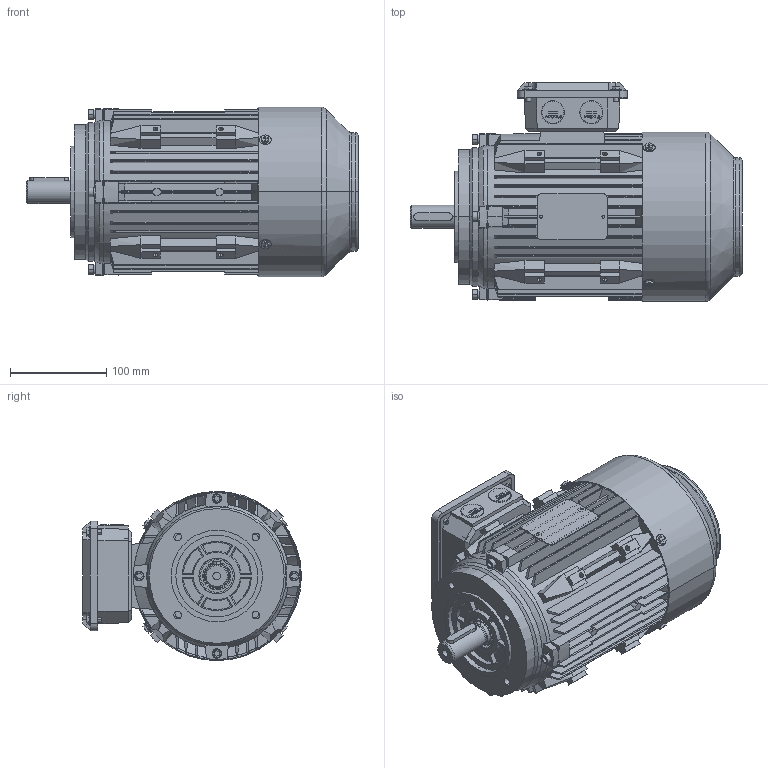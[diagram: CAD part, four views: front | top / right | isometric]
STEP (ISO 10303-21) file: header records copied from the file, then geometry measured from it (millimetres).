
FILE_DESCRIPTION (( 'STEP AP203' ), '1' );
FILE_NAME ('TC 90L B14 装配体.STEP', '2013-12-12T07:22:46', ( '微软用户' ), ( '微软中国' ), 'SwSTEP 2.0', 'SolidWorks 2008', '' );
FILE_SCHEMA (( 'CONFIG_CONTROL_DESIGN' ));
Products named in the file (20): T90L-4无轴转子_默认; 6205_默认; 油封25-37-7_默认; M6-20_默认; TC 90-100 接线盒盖_默认; TC 80-90风叶_默认; 风罩_默认; M20螺塞_默认; TC 90 B14端盖_默认; TC 90L转轴（波形垫在前）_默认; TC 90L 转子_默认; 6_默认; TC 90-100 接线盒座_默认; 5_默认; M5-12_默认; TC 90平键_默认; TC 90L B14 蚾饜极; TC 90L机座 B5_默认; TC 90 B3端盖_默认; T90L-4定子铁心_默认
Assembly tree (46 placements, depth 3):
  TC 90L B14 蚾饜极
    TC 90L 转子_默认
      T90L-4无轴转子_默认
      6205_默认  x2
      TC 90L转轴（波形垫在前）_默认
    M5-12_默认  x8
    5_默认  x4
    TC 90L机座 B5_默认
    M6-20_默认  x8
    6_默认  x8
    油封25-37-7_默认  x2
    风罩_默认
    TC 90平键_默认
    TC 90 B14端盖_默认
    TC 90-100 接线盒盖_默认
    TC 90 B3端盖_默认
    M20螺塞_默认  x2
    TC 80-90风叶_默认
    T90L-4定子铁心_默认
    TC 90-100 接线盒座_默认
Bounding box: 345 x 227.5 x 175.99 mm (x, y, z)
Volume: 2727676.7 mm3; surface area: 984213.4 mm2
Topology: 49 solids, 50 shells, 3335 faces, 8982 edges, 5867 vertices
Faces by surface type: plane 1703, cylinder 1091, cone 238, torus 167, bspline 136
Entity records: 99137 total; most frequent: CARTESIAN_POINT 25889, ORIENTED_EDGE 15120, DIRECTION 14331, EDGE_CURVE 7560, AXIS2_PLACEMENT_3D 5055, VERTEX_POINT 4967, LINE 4221, VECTOR 4221
